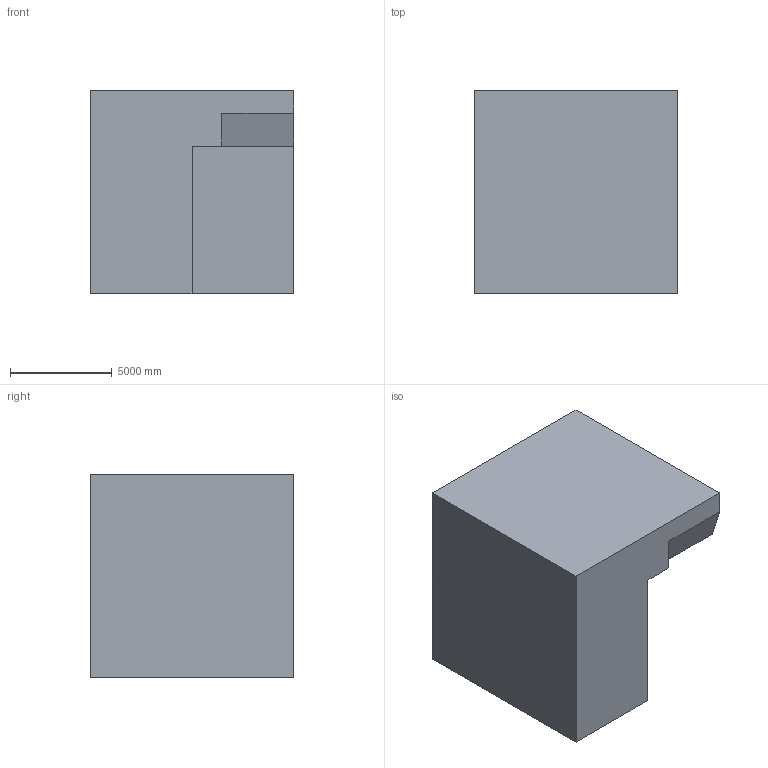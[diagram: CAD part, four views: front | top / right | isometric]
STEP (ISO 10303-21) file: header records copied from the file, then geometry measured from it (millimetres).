
FILE_DESCRIPTION (( 'STEP AP203' ), '1' );
FILE_NAME ('1023.STEP', '2022-08-18T12:27:40', ( 'user' ), ( '' ), 'SwSTEP 2.0', 'SolidWorks 2021', '' );
FILE_SCHEMA (( 'CONFIG_CONTROL_DESIGN' ));
Length unit declared in the file: centimetre
Products named in the file (1): 1023
Bounding box: 10000 x 10000 x 10000 mm (x, y, z)
Volume: 803981940892.7 mm3; surface area: 598445155.5 mm2
Topology: 1 solids, 1 shells, 11 faces, 27 edges, 18 vertices
Faces by surface type: plane 11
Entity records: 398 total; most frequent: CARTESIAN_POINT 57, ORIENTED_EDGE 54, DIRECTION 51, LINE 27, VECTOR 27, EDGE_CURVE 27, VERTEX_POINT 18, AXIS2_PLACEMENT_3D 12
